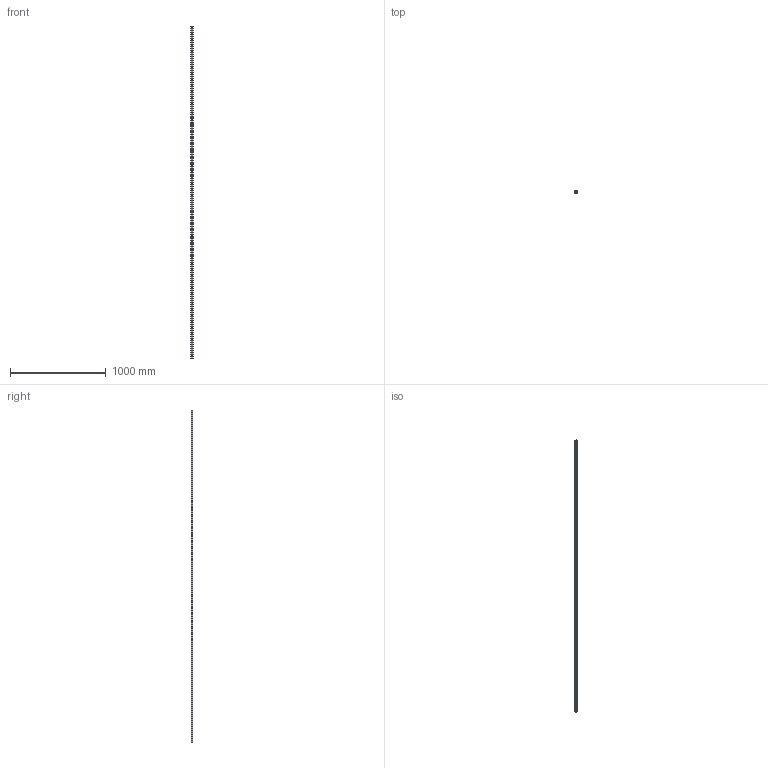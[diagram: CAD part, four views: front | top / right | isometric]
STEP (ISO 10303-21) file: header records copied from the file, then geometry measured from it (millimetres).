
FILE_DESCRIPTION (( 'STEP AP203' ), '1' );
FILE_NAME ('L1016.BRF25-3460.step', '2019-06-13T08:46:54', ( '' ), ( '' ), 'SwSTEP 2.0', 'SolidWorks 2017', '' );
FILE_SCHEMA (( 'CONFIG_CONTROL_DESIGN' ));
Length unit declared in the file: millimetre
Products named in the file (1): L1016.BRF25-3460
Bounding box: 23 x 19.2 x 3460 mm (x, y, z)
Volume: 1321065.6 mm3; surface area: 318254.8 mm2
Topology: 1 solids, 1 shells, 432 faces, 1000 edges, 570 vertices
Faces by surface type: cylinder 236, cone 116, plane 80
Entity records: 11573 total; most frequent: DIRECTION 2222, CARTESIAN_POINT 1887, ORIENTED_EDGE 1768, AXIS2_PLACEMENT_3D 905, EDGE_CURVE 884, VERTEX_POINT 570, EDGE_LOOP 548, CIRCLE 472
